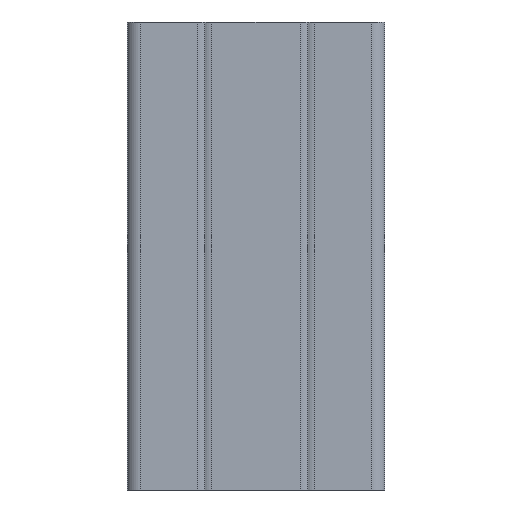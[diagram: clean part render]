
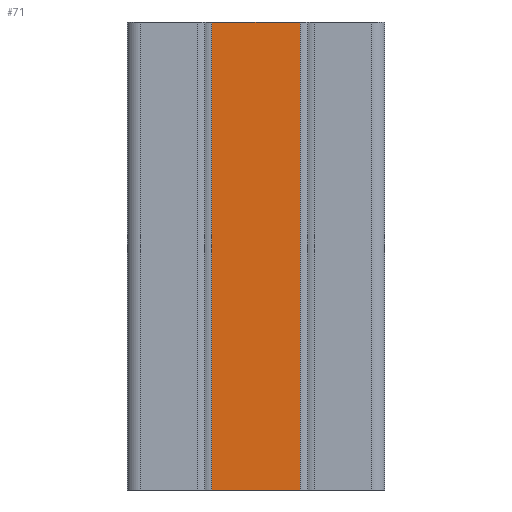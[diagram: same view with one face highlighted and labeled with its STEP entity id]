
A CAD part, left-side view. The second image highlights one B-rep face of the part: STEP entity #71.
In plain terms, the highlighted planar face has unit normal (-1, 0, 0).
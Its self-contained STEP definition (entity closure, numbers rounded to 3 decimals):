
#44 = LINE ( 'NONE', #1963, #1314 ) ;
#71 = ADVANCED_FACE ( 'NONE', ( #720 ), #1741, .F. ) ;
#99 = CARTESIAN_POINT ( 'NONE',  ( -12.5, -9.5, 0. ) ) ;
#219 = ORIENTED_EDGE ( 'NONE', *, *, #573, .F. ) ;
#256 = EDGE_CURVE ( 'NONE', #527, #283, #743, .T. ) ;
#283 = VERTEX_POINT ( 'NONE', #496 ) ;
#370 = ORIENTED_EDGE ( 'NONE', *, *, #256, .F. ) ;
#373 = EDGE_CURVE ( 'NONE', #2007, #1361, #808, .T. ) ;
#448 = DIRECTION ( 'NONE',  ( 0., 0., -1. ) ) ;
#472 = DIRECTION ( 'NONE',  ( 0., -1., 0. ) ) ;
#496 = CARTESIAN_POINT ( 'NONE',  ( -12.5, -9.5, 0. ) ) ;
#527 = VERTEX_POINT ( 'NONE', #874 ) ;
#573 = EDGE_CURVE ( 'NONE', #2007, #527, #44, .T. ) ;
#619 = DIRECTION ( 'NONE',  ( 0., 0., -1. ) ) ;
#621 = VECTOR ( 'NONE', #1460, 1000. ) ;
#720 = FACE_OUTER_BOUND ( 'NONE', #1072, .T. ) ;
#724 = VECTOR ( 'NONE', #1451, 1000. ) ;
#743 = LINE ( 'NONE', #1448, #621 ) ;
#808 = LINE ( 'NONE', #957, #1991 ) ;
#874 = CARTESIAN_POINT ( 'NONE',  ( -12.5, -9.5, 100. ) ) ;
#950 = ORIENTED_EDGE ( 'NONE', *, *, #373, .T. ) ;
#957 = CARTESIAN_POINT ( 'NONE',  ( -12.5, 9.5, 100. ) ) ;
#991 = CARTESIAN_POINT ( 'NONE',  ( -12.5, 9.5, 100. ) ) ;
#1072 = EDGE_LOOP ( 'NONE', ( #1326, #370, #219, #950 ) ) ;
#1106 = LINE ( 'NONE', #99, #724 ) ;
#1151 = EDGE_CURVE ( 'NONE', #1361, #283, #1106, .T. ) ;
#1314 = VECTOR ( 'NONE', #472, 1000. ) ;
#1326 = ORIENTED_EDGE ( 'NONE', *, *, #1151, .T. ) ;
#1361 = VERTEX_POINT ( 'NONE', #1559 ) ;
#1448 = CARTESIAN_POINT ( 'NONE',  ( -12.5, -9.5, 100. ) ) ;
#1451 = DIRECTION ( 'NONE',  ( 0., -1., 0. ) ) ;
#1460 = DIRECTION ( 'NONE',  ( 0., 0., -1. ) ) ;
#1559 = CARTESIAN_POINT ( 'NONE',  ( -12.5, 9.5, 0. ) ) ;
#1580 = DIRECTION ( 'NONE',  ( 1., 0., 0. ) ) ;
#1590 = CARTESIAN_POINT ( 'NONE',  ( -12.5, -9.5, 100. ) ) ;
#1741 = PLANE ( 'NONE',  #2030 ) ;
#1963 = CARTESIAN_POINT ( 'NONE',  ( -12.5, -9.5, 100. ) ) ;
#1991 = VECTOR ( 'NONE', #448, 1000. ) ;
#2007 = VERTEX_POINT ( 'NONE', #991 ) ;
#2030 = AXIS2_PLACEMENT_3D ( 'NONE', #1590, #1580, #619 ) ;
